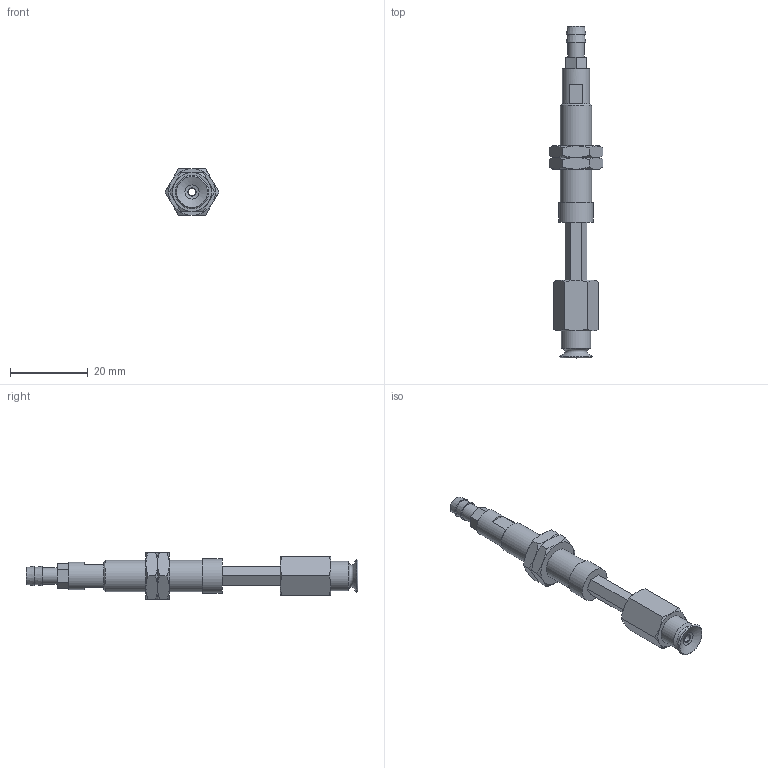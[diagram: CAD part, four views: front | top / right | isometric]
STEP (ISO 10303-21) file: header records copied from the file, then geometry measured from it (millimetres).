
FILE_DESCRIPTION(('STEP AP203'),'1');
FILE_NAME('-T.stp','2025-08-27T03:06:25',(' '),(' '),'Spatial InterOp 3D',' ',' ');
FILE_SCHEMA(('CONFIG_CONTROL_DESIGN'));
Length unit declared in the file: millimetre
Products named in the file (7): BNABPFTH-8A-15-※-T; ADAPTER; NAPATH-10A-15--M; Nut-8A-15-h; NAPFTH-8A-15-FBODY; BPFG-8A-※; T
Assembly tree (7 placements, depth 2):
  BNABPFTH-8A-15-※-T
    ADAPTER
    NAPATH-10A-15--M
    Nut-8A-15-h  x2
    NAPFTH-8A-15-FBODY
    BPFG-8A-※
    T
Bounding box: 13.86 x 85.5 x 12 mm (x, y, z)
Volume: 3999.3 mm3; surface area: 5026 mm2
Topology: 7 solids, 7 shells, 141 faces, 301 edges, 184 vertices
Faces by surface type: plane 64, cone 49, cylinder 17, torus 10, bspline 1
Full cylindrical faces by diameter (mm): 2 x3, 3 x1, 4 x2, 4.134 x1, 4.3 x1, 5 x1, 6 x2, 7 x1, 7.188 x2, 7.5 x1, 8 x1, 9 x1
Entity records: 3485 total; most frequent: CARTESIAN_POINT 795, DIRECTION 490, ORIENTED_EDGE 412, AXIS2_PLACEMENT_3D 207, EDGE_CURVE 206, EDGE_LOOP 178, VERTEX_POINT 148, FACE_OUTER_BOUND 145
